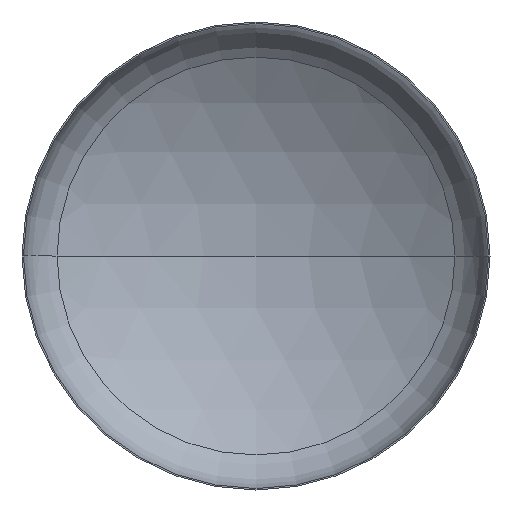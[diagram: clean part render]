
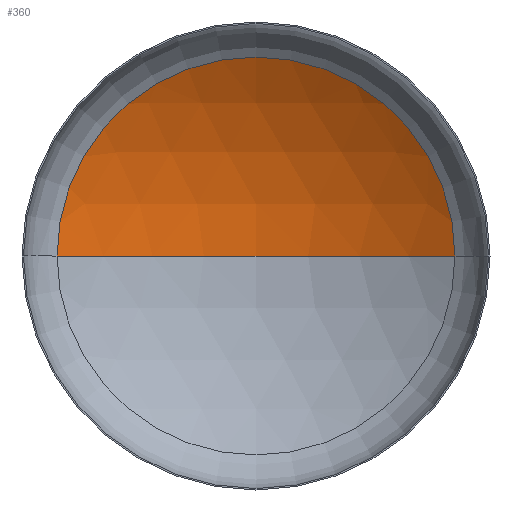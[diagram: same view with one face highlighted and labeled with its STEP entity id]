
A CAD part, front view. The second image highlights one B-rep face of the part: STEP entity #360.
In plain terms, the highlighted spherical face has radius 1280 mm.
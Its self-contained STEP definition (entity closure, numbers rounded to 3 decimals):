
#1 = VERTEX_POINT ( 'NONE', #249 ) ;
#8 = EDGE_LOOP ( 'NONE', ( #67, #23, #17 ) ) ;
#13 = AXIS2_PLACEMENT_3D ( 'NONE', #334, #189, #145 ) ;
#17 = ORIENTED_EDGE ( 'NONE', *, *, #200, .T. ) ;
#23 = ORIENTED_EDGE ( 'NONE', *, *, #204, .T. ) ;
#47 = VERTEX_POINT ( 'NONE', #245 ) ;
#67 = ORIENTED_EDGE ( 'NONE', *, *, #206, .F. ) ;
#87 = VERTEX_POINT ( 'NONE', #232 ) ;
#110 = AXIS2_PLACEMENT_3D ( 'NONE', #251, #277, #275 ) ;
#117 = AXIS2_PLACEMENT_3D ( 'NONE', #216, #213, #214 ) ;
#122 = CARTESIAN_POINT ( 'NONE',  ( 0., 227.545, 0. ) ) ;
#127 = SPHERICAL_SURFACE ( 'NONE', #13, 1280. ) ;
#135 = AXIS2_PLACEMENT_3D ( 'NONE', #122, #307, #172 ) ;
#145 = DIRECTION ( 'NONE',  ( -1., 0., 0. ) ) ;
#172 = DIRECTION ( 'NONE',  ( 1., 0., 0. ) ) ;
#178 = CIRCLE ( 'NONE', #117, 1280. ) ;
#189 = DIRECTION ( 'NONE',  ( 0., 0., -1. ) ) ;
#200 = EDGE_CURVE ( 'NONE', #47, #87, #257, .T. ) ;
#204 = EDGE_CURVE ( 'NONE', #1, #47, #178, .T. ) ;
#206 = EDGE_CURVE ( 'NONE', #1, #87, #250, .T. ) ;
#213 = DIRECTION ( 'NONE',  ( 0., 0., -1. ) ) ;
#214 = DIRECTION ( 'NONE',  ( -1., 0., 0. ) ) ;
#216 = CARTESIAN_POINT ( 'NONE',  ( 0., -856.77, 0. ) ) ;
#232 = CARTESIAN_POINT ( 'NONE',  ( -680.193, 227.545, 0. ) ) ;
#245 = CARTESIAN_POINT ( 'NONE',  ( 680.193, 227.545, 0. ) ) ;
#249 = CARTESIAN_POINT ( 'NONE',  ( 0., 423.23, 0. ) ) ;
#250 = CIRCLE ( 'NONE', #110, 1280. ) ;
#251 = CARTESIAN_POINT ( 'NONE',  ( 0., -856.77, 0. ) ) ;
#257 = CIRCLE ( 'NONE', #135, 680.193 ) ;
#275 = DIRECTION ( 'NONE',  ( 1., 0., 0. ) ) ;
#277 = DIRECTION ( 'NONE',  ( 0., 0., 1. ) ) ;
#307 = DIRECTION ( 'NONE',  ( 0., -1., 0. ) ) ;
#334 = CARTESIAN_POINT ( 'NONE',  ( 0., -856.77, 0. ) ) ;
#360 = ADVANCED_FACE ( 'NONE', ( #396 ), #127, .F. ) ;
#396 = FACE_OUTER_BOUND ( 'NONE', #8, .T. ) ;
